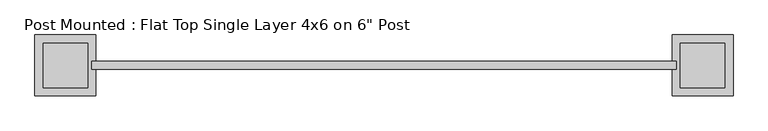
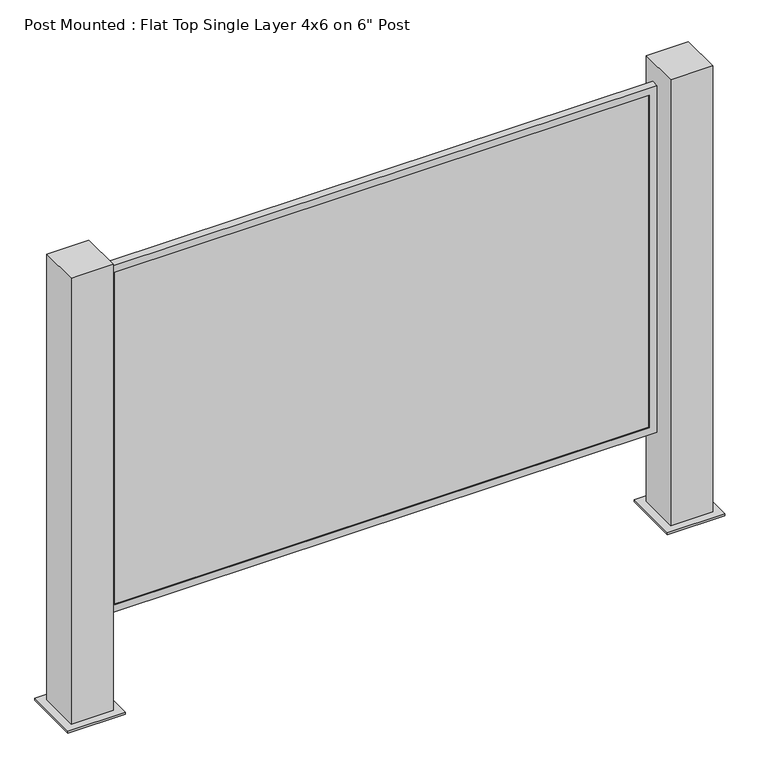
"""IFC4 building model written with IfcOpenShell, lengths in millimetres: proxy geometry."""

from ifc_helpers import new_model, si_unit, frame, origin, origin_with_axes, place, context, project, spatial, polyline, outline, extrude, source, transform, mapped, element, save


def proxy_14816cca(model_context):
    return source(origin(), model_context, "Body", "SweptSolid", [
        extrude(outline(polyline([(-854.257955, 95.25), (-854.257955, -95.25), (-1044.757955, -95.25), (-1044.757955, 95.25), (-854.257955, 95.25)])), origin_with_axes(), (0.0, 0.0, 1.0), 6.35),
        extrude(outline(polyline([(1139.642045, 95.25), (1139.642045, -95.25), (949.142045, -95.25), (949.142045, 95.25), (1139.642045, 95.25)])), origin_with_axes(), (0.0, 0.0, 1.0), 6.35),
        extrude(outline(polyline([(936.442045, -1.5875), (-841.557955, -1.5875), (-841.557955, 1.5875), (936.442045, 1.5875), (936.442045, -1.5875)])), frame((0.0, 0.0, 330.2), z_axis=(0.0, 0.0, 1.0), x_axis=(1.0, 0.0, 0.0)), (0.0, 0.0, 1.0), 1168.4),
        extrude(outline(polyline([(1524.0, 961.842045), (1524.0, -866.957955), (304.8, -866.957955), (304.8, 961.842045), (1524.0, 961.842045)]), holes=[polyline([(1498.6, 936.442045), (330.2, 936.442045), (330.2, -841.557955), (1498.6, -841.557955), (1498.6, 936.442045)])]), frame((0.0, -12.7, 0.0), z_axis=(0.0, 1.0, 0.0), x_axis=(0.0, 0.0, 1.0)), (0.0, 0.0, 1.0), 25.4),
        extrude(outline(polyline([(1114.242045, 69.85), (1114.242045, -69.85), (974.542045, -69.85), (974.542045, 69.85), (1114.242045, 69.85)])), frame((0.0, 0.0, 6.35), z_axis=(0.0, 0.0, 1.0), x_axis=(1.0, 0.0, 0.0)), (0.0, 0.0, 1.0), 1568.45),
        extrude(outline(polyline([(-879.657955, 69.85), (-879.657955, -69.85), (-1019.357955, -69.85), (-1019.357955, 69.85), (-879.657955, 69.85)])), frame((0.0, 0.0, 6.35), z_axis=(0.0, 0.0, 1.0), x_axis=(1.0, 0.0, 0.0)), (0.0, 0.0, 1.0), 1568.45),
        extrude(outline(polyline([(936.442045, -9.525), (-841.557955, -9.525), (-841.557955, 1.5875), (936.442045, 1.5875), (936.442045, -9.525)])), frame((0.0, 0.0, 330.2), z_axis=(0.0, 0.0, 1.0), x_axis=(1.0, 0.0, 0.0)), (0.0, 0.0, 1.0), 1168.4),
    ])


if __name__ == "__main__":
    model = new_model("IFC4")
    model_context = context("Model", 3, world=origin())
    ifc_project = project(units=[si_unit("LENGTHUNIT", "METRE", prefix="MILLI")], contexts=[model_context])
    site = spatial("IfcSite", under=ifc_project)
    building = spatial("IfcBuilding", under=site)
    placement = place(None, origin())
    proxy_shape = proxy_14816cca(model_context)
    element("IfcBuildingElementProxy", 1, Name="Post Mounted : Flat Top Single Layer 4x6 on 6\" Post", ObjectType="Post Mounted : Flat Top Single Layer 4x6 on 6\" Post", at=placement, inside=building, context=model_context, shape_type="MappedRepresentation", body=[
        mapped(proxy_shape, transform((0.0, 0.0, 0.0), x_axis=(1.0, 0.0, 0.0), y_axis=(0.0, 1.0, 0.0), z_axis=(0.0, 0.0, 1.0))),
    ])
    save(model, "model.ifc")
